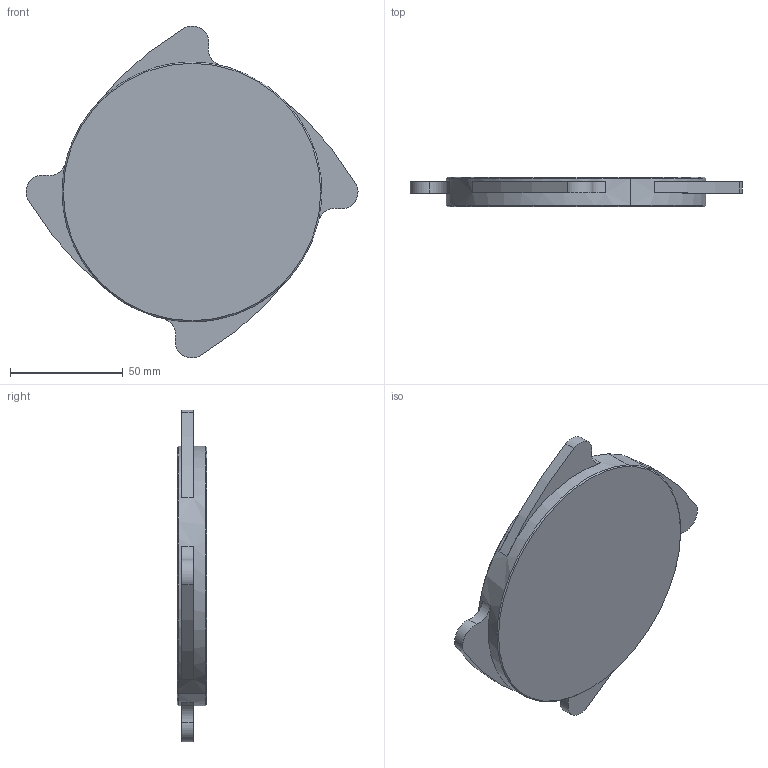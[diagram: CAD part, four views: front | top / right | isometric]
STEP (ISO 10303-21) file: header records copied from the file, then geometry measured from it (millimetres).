
FILE_DESCRIPTION( (''), '2;1');
FILE_NAME ('PC1276.1164.CF-60 65A_26153.stp','2025-06-09T17:44:20',(''),(''),'spGate 20.6.3 (****-****-****-****)','','');
FILE_SCHEMA (('AUTOMOTIVE_DESIGN'));
Length unit declared in the file: millimetre
Bounding box: 146.98 x 13 x 146.98 mm (x, y, z)
Volume: 143484.7 mm3; surface area: 29051.2 mm2
Topology: 1 solids, 1 shells, 28 faces, 66 edges, 44 vertices
Faces by surface type: cylinder 14, plane 10, bspline 4
Entity records: 1409 total; most frequent: CARTESIAN_POINT 192, DIRECTION 144, ORIENTED_EDGE 132, COLOUR_RGB 95, PRESENTATION_STYLE_ASSIGNMENT 95, STYLED_ITEM 95, EDGE_CURVE 66, DRAUGHTING_PRE_DEFINED_CURVE_FONT 66
